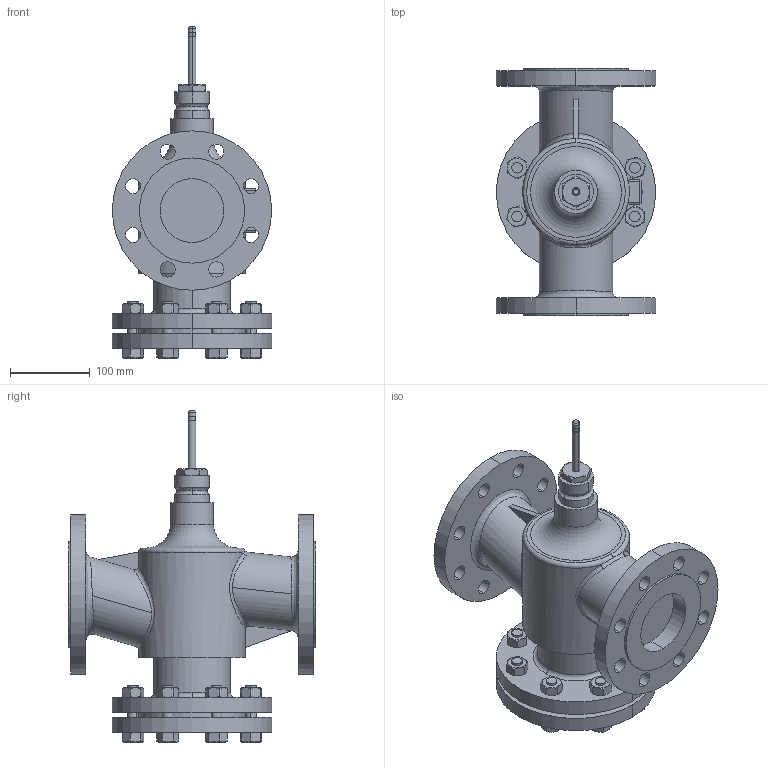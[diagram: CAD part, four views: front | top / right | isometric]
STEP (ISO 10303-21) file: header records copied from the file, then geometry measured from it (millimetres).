
FILE_DESCRIPTION(/* description */ (''),/* implementation_level */ '2;1');
FILE_NAME(/* name */ 'VVF43_53 DN80.stp',/* time_stamp */ '2012-11-07T11:56:06+01:00',/* author */ (''),/* organization */ (''),/* preprocessor_version */ 'ST-DEVELOPER v11',/* originating_system */ 'SIEMENS UGS NX 6.0',/* authorisation */ '');
FILE_SCHEMA (('AUTOMOTIVE_DESIGN { 1 0 10303 214 1 1 1 1 }'));
Length unit declared in the file: millimetre
Products named in the file (1): Ront9C9842ly
Bounding box: 200 x 310 x 416.5 mm (x, y, z)
Volume: 5756949.6 mm3; surface area: 464791.1 mm2
Topology: 1 solids, 2 shells, 386 faces, 992 edges, 658 vertices
Faces by surface type: plane 172, cylinder 127, cone 70, torus 9, bspline 6, sphere 2
Full cylindrical faces by diameter (mm): 54 x1
Entity records: 14001 total; most frequent: CARTESIAN_POINT 5072, ORIENTED_EDGE 1966, DIRECTION 1780, EDGE_CURVE 983, AXIS2_PLACEMENT_3D 724, VERTEX_POINT 655, EDGE_LOOP 488, ADVANCED_FACE 386
